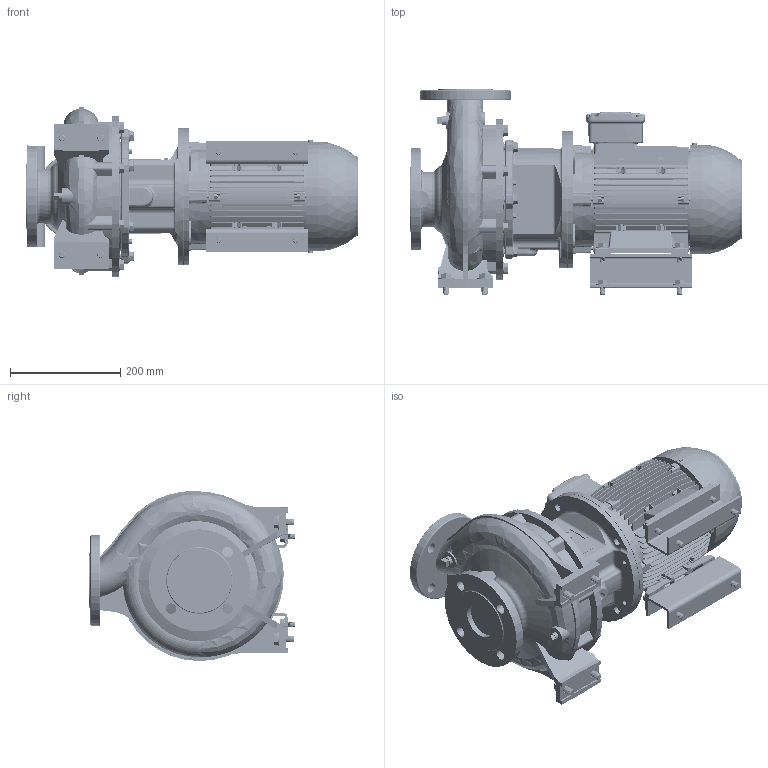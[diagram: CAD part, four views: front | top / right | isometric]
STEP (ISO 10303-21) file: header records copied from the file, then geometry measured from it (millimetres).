
FILE_DESCRIPTION (( 'STEP AP214' ), '1' );
FILE_NAME ('GSD4 50-200_2.2 & 3.0_(100L)_W21.STEP', '2026-06-18T06:17:00', ( '' ), ( '' ), 'SwSTEP 2.0', 'SolidWorks 2024', '' );
FILE_SCHEMA (( 'AUTOMOTIVE_DESIGN' ));
Length unit declared in the file: millimetre
Products named in the file (9): 50-200-100L_ﾃﾞﾌｫﾙﾄ; Parametric Flat Washer_M12; 100L ALIE3_W21T_B35; Parametric Flat Washer_M10; 140 x 60 Side - 271472021; Parametric bolt_SFT-A299B; Parametric bolt_SFT-A253B; Parametric bolt_SFT-A249B; GSD4 50-200_2.2 & 3.0_(100L)_W21
Assembly tree (28 placements, depth 2):
  GSD4 50-200_2.2 & 3.0_(100L)_W21
    50-200-100L_ﾃﾞﾌｫﾙﾄ
    100L ALIE3_W21T_B35
    140 x 60 Side - 271472021  x2
    Parametric bolt_SFT-A253B  x4
    Parametric bolt_SFT-A249B  x4
    Parametric bolt_SFT-A299B  x4
    Parametric Flat Washer_M10  x8
    Parametric Flat Washer_M12  x4
Bounding box: 602.1 x 373 x 308.98 mm (x, y, z)
Volume: 18068008.5 mm3; surface area: 1451680 mm2
Topology: 31 solids, 31 shells, 4351 faces, 11339 edges, 7297 vertices
Faces by surface type: plane 2389, cylinder 1176, torus 321, bspline 244, cone 203, sphere 18
Entity records: 185689 total; most frequent: CARTESIAN_POINT 93763, ORIENTED_EDGE 19928, DIRECTION 17778, EDGE_CURVE 9964, VERTEX_POINT 6417, VECTOR 6208, LINE 6208, AXIS2_PLACEMENT_3D 5785
